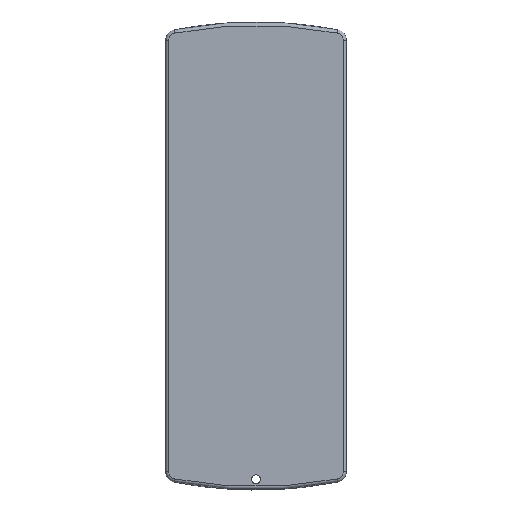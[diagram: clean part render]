
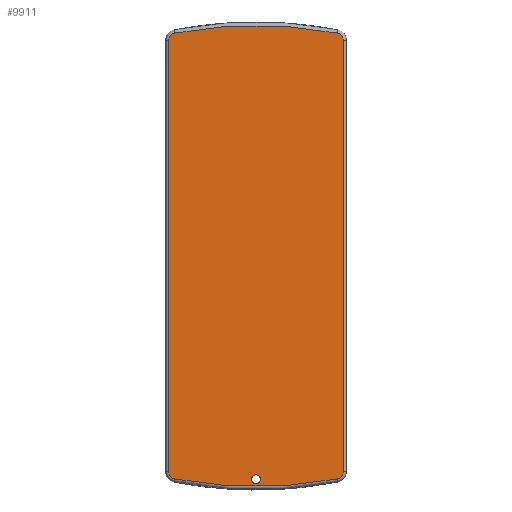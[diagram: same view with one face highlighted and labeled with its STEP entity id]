
A CAD part, front view. The second image highlights one B-rep face of the part: STEP entity #9911.
In plain terms, the highlighted planar face has unit normal (0, -1, 0).
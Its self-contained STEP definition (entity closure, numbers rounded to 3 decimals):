
#84=CARTESIAN_POINT('',(0.,0.,-92.5));
#85=DIRECTION('',(0.,1.,0.));
#86=DIRECTION('',(1.,0.,0.));
#87=AXIS2_PLACEMENT_3D('',#84,#85,#86);
#93=CARTESIAN_POINT('',(0.,0.,-92.5));
#94=DIRECTION('',(0.,1.,0.));
#95=DIRECTION('',(-1.,0.,0.));
#96=AXIS2_PLACEMENT_3D('',#93,#94,#95);
#101=CARTESIAN_POINT('',(0.,0.,102.5));
#102=DIRECTION('',(0.,-1.,0.));
#103=DIRECTION('',(-0.192,0.,-0.981));
#104=AXIS2_PLACEMENT_3D('',#101,#102,#103);
#109=CARTESIAN_POINT('',(-37.5,0.,-88.86));
#110=DIRECTION('',(0.,-1.,0.));
#111=DIRECTION('',(-1.,0.,0.));
#112=AXIS2_PLACEMENT_3D('',#109,#110,#111);
#117=DIRECTION('',(0.,0.,-1.));
#118=VECTOR('',#117,202.721);
#119=CARTESIAN_POINT('',(-41.,0.,113.86));
#120=LINE('',#119,#118);
#124=CARTESIAN_POINT('',(-37.5,0.,113.86));
#125=DIRECTION('',(0.,-1.,0.));
#126=DIRECTION('',(-0.192,0.,0.981));
#127=AXIS2_PLACEMENT_3D('',#124,#125,#126);
#132=CARTESIAN_POINT('',(0.,0.,-77.5));
#133=DIRECTION('',(0.,-1.,0.));
#134=DIRECTION('',(0.192,0.,0.981));
#135=AXIS2_PLACEMENT_3D('',#132,#133,#134);
#140=CARTESIAN_POINT('',(37.5,0.,113.86));
#141=DIRECTION('',(0.,-1.,0.));
#142=DIRECTION('',(1.,0.,0.));
#143=AXIS2_PLACEMENT_3D('',#140,#141,#142);
#148=DIRECTION('',(0.,0.,1.));
#149=VECTOR('',#148,202.721);
#150=CARTESIAN_POINT('',(41.,0.,-88.86));
#151=LINE('',#150,#149);
#155=CARTESIAN_POINT('',(37.5,0.,-88.86));
#156=DIRECTION('',(0.,-1.,0.));
#157=DIRECTION('',(0.192,0.,-0.981));
#158=AXIS2_PLACEMENT_3D('',#155,#156,#157);
#8526=CARTESIAN_POINT('',(2.1,0.,-92.5));
#8527=CARTESIAN_POINT('',(-2.1,0.,-92.5));
#8528=VERTEX_POINT('',#8526);
#8529=VERTEX_POINT('',#8527);
#9130=CARTESIAN_POINT('',(-38.173,0.,-92.295));
#9131=CARTESIAN_POINT('',(38.173,0.,-92.295));
#9132=VERTEX_POINT('',#9130);
#9133=VERTEX_POINT('',#9131);
#9138=CARTESIAN_POINT('',(41.,0.,-88.86));
#9139=VERTEX_POINT('',#9138);
#9142=CARTESIAN_POINT('',(41.,0.,113.86));
#9143=VERTEX_POINT('',#9142);
#9146=CARTESIAN_POINT('',(38.173,0.,117.295));
#9147=VERTEX_POINT('',#9146);
#9150=CARTESIAN_POINT('',(-38.173,0.,117.295));
#9151=VERTEX_POINT('',#9150);
#9154=CARTESIAN_POINT('',(-41.,0.,113.86));
#9155=VERTEX_POINT('',#9154);
#9158=CARTESIAN_POINT('',(-41.,0.,-88.86));
#9159=VERTEX_POINT('',#9158);
#9882=CARTESIAN_POINT('',(0.,0.,0.));
#9883=DIRECTION('',(0.,1.,0.));
#9884=DIRECTION('',(1.,0.,0.));
#9885=AXIS2_PLACEMENT_3D('',#9882,#9883,#9884);
#9886=PLANE('',#9885);
#9888=ORIENTED_EDGE('',*,*,#9887,.F.);
#9890=ORIENTED_EDGE('',*,*,#9889,.F.);
#9892=ORIENTED_EDGE('',*,*,#9891,.F.);
#9894=ORIENTED_EDGE('',*,*,#9893,.F.);
#9896=ORIENTED_EDGE('',*,*,#9895,.F.);
#9898=ORIENTED_EDGE('',*,*,#9897,.F.);
#9900=ORIENTED_EDGE('',*,*,#9899,.F.);
#9902=ORIENTED_EDGE('',*,*,#9901,.F.);
#9903=EDGE_LOOP('',(#9888,#9890,#9892,#9894,#9896,#9898,#9900,#9902));
#9904=FACE_OUTER_BOUND('',#9903,.F.);
#9906=ORIENTED_EDGE('',*,*,#9905,.F.);
#9908=ORIENTED_EDGE('',*,*,#9907,.F.);
#9909=EDGE_LOOP('',(#9906,#9908));
#9910=FACE_BOUND('',#9909,.F.);
#88=CIRCLE('',#87,2.1);
#97=CIRCLE('',#96,2.1);
#105=CIRCLE('',#104,198.5);
#113=CIRCLE('',#112,3.5);
#128=CIRCLE('',#127,3.5);
#136=CIRCLE('',#135,198.5);
#144=CIRCLE('',#143,3.5);
#159=CIRCLE('',#158,3.5);
#9887=EDGE_CURVE('',#9132,#9133,#105,.T.);
#9889=EDGE_CURVE('',#9159,#9132,#113,.T.);
#9891=EDGE_CURVE('',#9155,#9159,#120,.T.);
#9893=EDGE_CURVE('',#9151,#9155,#128,.T.);
#9895=EDGE_CURVE('',#9147,#9151,#136,.T.);
#9897=EDGE_CURVE('',#9143,#9147,#144,.T.);
#9899=EDGE_CURVE('',#9139,#9143,#151,.T.);
#9901=EDGE_CURVE('',#9133,#9139,#159,.T.);
#9905=EDGE_CURVE('',#8528,#8529,#88,.T.);
#9907=EDGE_CURVE('',#8529,#8528,#97,.T.);
#9911=ADVANCED_FACE('',(#9904,#9910),#9886,.F.);
